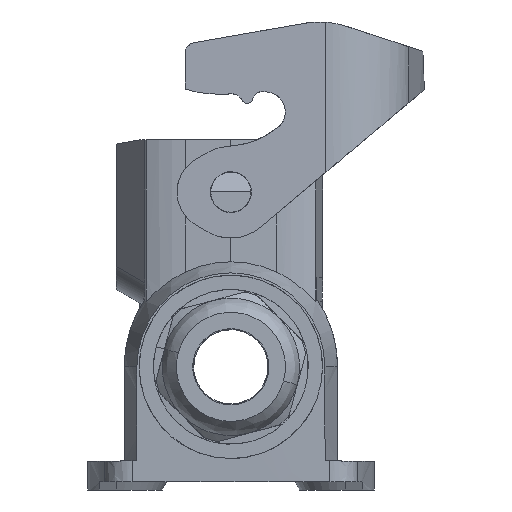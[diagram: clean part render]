
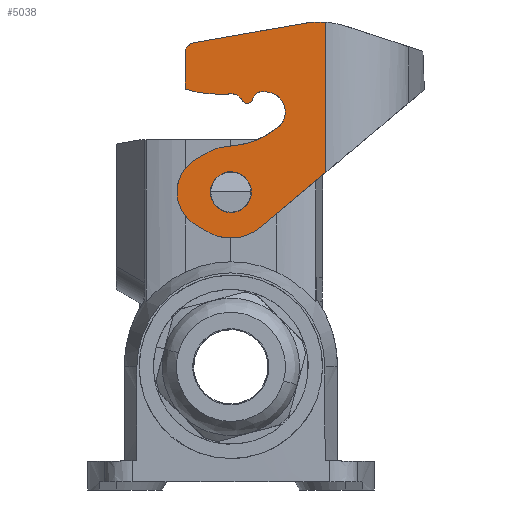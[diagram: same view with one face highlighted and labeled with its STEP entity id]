
A CAD part, left-side view. The second image highlights one B-rep face of the part: STEP entity #5038.
In plain terms, the highlighted planar face has unit normal (-1, -0.009, 0).
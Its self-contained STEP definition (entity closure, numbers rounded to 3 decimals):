
#4811=FACE_BOUND('',#6995,.T.);
#4812=FACE_BOUND('',#6996,.T.);
#5038=ADVANCED_FACE('',(#4811,#4812),#5766,.T.);
#5766=PLANE('',#21309);
#6995=EDGE_LOOP('',(#8269));
#6996=EDGE_LOOP('',(#8270,#8271,#8272,#8273,#8274,#8275,#8276,#8277,#8278,
#8279,#8280,#8281,#8282,#8283,#8284,#8285,#8286,#8287,#8288));
#8269=ORIENTED_EDGE('',*,*,#14174,.F.);
#8270=ORIENTED_EDGE('',*,*,#14175,.T.);
#8271=ORIENTED_EDGE('',*,*,#14176,.F.);
#8272=ORIENTED_EDGE('',*,*,#14177,.T.);
#8273=ORIENTED_EDGE('',*,*,#14178,.T.);
#8274=ORIENTED_EDGE('',*,*,#14179,.F.);
#8275=ORIENTED_EDGE('',*,*,#14180,.T.);
#8276=ORIENTED_EDGE('',*,*,#14181,.F.);
#8277=ORIENTED_EDGE('',*,*,#14182,.F.);
#8278=ORIENTED_EDGE('',*,*,#14183,.F.);
#8279=ORIENTED_EDGE('',*,*,#14184,.F.);
#8280=ORIENTED_EDGE('',*,*,#14185,.F.);
#8281=ORIENTED_EDGE('',*,*,#14186,.F.);
#8282=ORIENTED_EDGE('',*,*,#14187,.F.);
#8283=ORIENTED_EDGE('',*,*,#14188,.F.);
#8284=ORIENTED_EDGE('',*,*,#14189,.T.);
#8285=ORIENTED_EDGE('',*,*,#14102,.T.);
#8286=ORIENTED_EDGE('',*,*,#14190,.T.);
#8287=ORIENTED_EDGE('',*,*,#14143,.F.);
#8288=ORIENTED_EDGE('',*,*,#13994,.F.);
#12412=VERTEX_POINT('',#26782);
#12413=VERTEX_POINT('',#26784);
#12468=VERTEX_POINT('',#27188);
#12469=VERTEX_POINT('',#27190);
#12504=VERTEX_POINT('',#27275);
#12523=VERTEX_POINT('',#27350);
#12524=VERTEX_POINT('',#27352);
#12525=VERTEX_POINT('',#27354);
#12526=VERTEX_POINT('',#27356);
#12527=VERTEX_POINT('',#27358);
#12528=VERTEX_POINT('',#27360);
#12529=VERTEX_POINT('',#27362);
#12530=VERTEX_POINT('',#27364);
#12531=VERTEX_POINT('',#27366);
#12532=VERTEX_POINT('',#27368);
#12533=VERTEX_POINT('',#27370);
#12534=VERTEX_POINT('',#27372);
#12535=VERTEX_POINT('',#27374);
#12536=VERTEX_POINT('',#27376);
#12537=VERTEX_POINT('',#27378);
#13994=EDGE_CURVE('',#12412,#12413,#17438,.T.);
#14102=EDGE_CURVE('',#12469,#12468,#16189,.T.);
#14143=EDGE_CURVE('',#12413,#12504,#16199,.T.);
#14174=EDGE_CURVE('',#12523,#12523,#16203,.T.);
#14175=EDGE_CURVE('',#12412,#12524,#17547,.T.);
#14176=EDGE_CURVE('',#12525,#12524,#16204,.T.);
#14177=EDGE_CURVE('',#12525,#12526,#17548,.T.);
#14178=EDGE_CURVE('',#12526,#12527,#16205,.T.);
#14179=EDGE_CURVE('',#12528,#12527,#17549,.T.);
#14180=EDGE_CURVE('',#12528,#12529,#16206,.T.);
#14181=EDGE_CURVE('',#12530,#12529,#17550,.T.);
#14182=EDGE_CURVE('',#12531,#12530,#16207,.T.);
#14183=EDGE_CURVE('',#12532,#12531,#16208,.T.);
#14184=EDGE_CURVE('',#12533,#12532,#16209,.T.);
#14185=EDGE_CURVE('',#12534,#12533,#17551,.T.);
#14186=EDGE_CURVE('',#12535,#12534,#16210,.T.);
#14187=EDGE_CURVE('',#12536,#12535,#16211,.T.);
#14188=EDGE_CURVE('',#12537,#12536,#16212,.T.);
#14189=EDGE_CURVE('',#12537,#12469,#17552,.T.);
#14190=EDGE_CURVE('',#12468,#12504,#17553,.T.);
#16189=ELLIPSE('',#21269,6.588,6.588);
#16199=ELLIPSE('',#21287,8.,8.);
#16203=ELLIPSE('',#21299,3.575,3.575);
#16204=ELLIPSE('',#21300,15.001,15.);
#16205=ELLIPSE('',#21301,2.,2.);
#16206=ELLIPSE('',#21302,15.001,15.);
#16207=ELLIPSE('',#21303,2.3,2.3);
#16208=ELLIPSE('',#21304,1.,1.);
#16209=ELLIPSE('',#21305,1.5,1.5);
#16210=ELLIPSE('',#21306,3.5,3.5);
#16211=ELLIPSE('',#21307,15.001,15.);
#16212=ELLIPSE('',#21308,8.,8.);
#17438=LINE('',#26783,#18885);
#17547=LINE('',#27351,#18995);
#17548=LINE('',#27355,#18996);
#17549=LINE('',#27359,#18997);
#17550=LINE('',#27363,#18998);
#17551=LINE('',#27371,#18999);
#17552=LINE('',#27379,#19000);
#17553=LINE('',#27380,#19001);
#18885=VECTOR('',#22572,1.);
#18995=VECTOR('',#22908,1.);
#18996=VECTOR('',#22911,1.);
#18997=VECTOR('',#22914,1.);
#18998=VECTOR('',#22917,1.);
#18999=VECTOR('',#22924,1.);
#19000=VECTOR('',#22931,1.);
#19001=VECTOR('',#22932,1.);
#21269=AXIS2_PLACEMENT_3D('',#27189,#22800,#22801);
#21287=AXIS2_PLACEMENT_3D('',#27277,#22862,#22863);
#21299=AXIS2_PLACEMENT_3D('',#27349,#22906,#22907);
#21300=AXIS2_PLACEMENT_3D('',#27353,#22909,#22910);
#21301=AXIS2_PLACEMENT_3D('',#27357,#22912,#22913);
#21302=AXIS2_PLACEMENT_3D('',#27361,#22915,#22916);
#21303=AXIS2_PLACEMENT_3D('',#27365,#22918,#22919);
#21304=AXIS2_PLACEMENT_3D('',#27367,#22920,#22921);
#21305=AXIS2_PLACEMENT_3D('',#27369,#22922,#22923);
#21306=AXIS2_PLACEMENT_3D('',#27373,#22925,#22926);
#21307=AXIS2_PLACEMENT_3D('',#27375,#22927,#22928);
#21308=AXIS2_PLACEMENT_3D('',#27377,#22929,#22930);
#21309=AXIS2_PLACEMENT_3D('',#27381,#22933,#22934);
#22572=DIRECTION('',(-0.007,0.766,-0.643));
#22800=DIRECTION('',(-1.,-0.009,0.));
#22801=DIRECTION('',(0.009,-1.,0.));
#22862=DIRECTION('',(1.,0.009,0.));
#22863=DIRECTION('',(0.009,-1.,0.));
#22906=DIRECTION('',(-1.,-0.009,0.));
#22907=DIRECTION('',(0.009,-1.,0.));
#22908=DIRECTION('',(0.,0.,1.));
#22909=DIRECTION('',(1.,0.009,0.));
#22910=DIRECTION('',(0.009,-1.,0.));
#22911=DIRECTION('',(-0.009,0.985,-0.174));
#22912=DIRECTION('',(-1.,-0.009,0.));
#22913=DIRECTION('',(0.009,-1.,0.));
#22914=DIRECTION('',(0.,0.,1.));
#22915=DIRECTION('',(-1.,-0.009,0.));
#22916=DIRECTION('',(0.009,-1.,0.));
#22917=DIRECTION('',(-0.009,0.996,0.087));
#22918=DIRECTION('',(-1.,-0.009,0.));
#22919=DIRECTION('',(0.009,-1.,0.));
#22920=DIRECTION('',(1.,0.009,0.));
#22921=DIRECTION('',(0.009,-1.,0.));
#22922=DIRECTION('',(-1.,-0.009,0.));
#22923=DIRECTION('',(0.009,-1.,0.));
#22924=DIRECTION('',(-0.009,1.,0.));
#22925=DIRECTION('',(-1.,-0.009,0.));
#22926=DIRECTION('',(0.009,-1.,0.));
#22927=DIRECTION('',(-1.,-0.009,0.));
#22928=DIRECTION('',(0.009,-1.,0.));
#22929=DIRECTION('',(1.,0.009,0.));
#22930=DIRECTION('',(0.009,-1.,0.));
#22931=DIRECTION('',(-0.008,0.866,-0.5));
#22932=DIRECTION('',(0.008,-0.866,-0.5));
#22933=DIRECTION('',(-1.,-0.009,0.));
#22934=DIRECTION('',(-0.009,1.,0.));
#26782=CARTESIAN_POINT('',(-37.255,-16.576,3.266));
#26783=CARTESIAN_POINT('',(-37.223,-20.257,6.355));
#26784=CARTESIAN_POINT('',(-37.355,-5.142,-6.328));
#27188=CARTESIAN_POINT('',(-37.453,6.119,-5.905));
#27189=CARTESIAN_POINT('',(-37.425,2.825,-0.2));
#27190=CARTESIAN_POINT('',(-37.453,6.119,5.505));
#27275=CARTESIAN_POINT('',(-37.435,4.,-7.128));
#27277=CARTESIAN_POINT('',(-37.4,0.,-0.2));
#27349=CARTESIAN_POINT('',(-37.4,0.,-0.2));
#27350=CARTESIAN_POINT('',(-37.369,-3.575,-0.2));
#27351=CARTESIAN_POINT('',(-37.255,-16.576,44.8));
#27352=CARTESIAN_POINT('',(-37.255,-16.576,29.455));
#27353=CARTESIAN_POINT('',(-37.265,-15.424,14.499));
#27354=CARTESIAN_POINT('',(-37.288,-12.819,29.271));
#27355=CARTESIAN_POINT('',(-37.475,8.596,25.495));
#27356=CARTESIAN_POINT('',(-37.455,6.347,25.891));
#27357=CARTESIAN_POINT('',(-37.452,6.,23.922));
#27358=CARTESIAN_POINT('',(-37.47,8.,23.922));
#27359=CARTESIAN_POINT('',(-37.47,8.,44.8));
#27360=CARTESIAN_POINT('',(-37.47,8.,17.8));
#27361=CARTESIAN_POINT('',(-37.428,3.233,32.022));
#27362=CARTESIAN_POINT('',(-37.44,4.54,17.079));
#27363=CARTESIAN_POINT('',(-37.44,4.541,17.079));
#27364=CARTESIAN_POINT('',(-37.408,0.958,16.766));
#27365=CARTESIAN_POINT('',(-37.4,0.,14.675));
#27366=CARTESIAN_POINT('',(-37.383,-2.002,15.808));
#27367=CARTESIAN_POINT('',(-37.375,-2.872,16.3));
#27368=CARTESIAN_POINT('',(-37.366,-3.852,16.1));
#27369=CARTESIAN_POINT('',(-37.354,-5.322,15.8));
#27370=CARTESIAN_POINT('',(-37.354,-5.322,17.3));
#27371=CARTESIAN_POINT('',(-37.505,12.,17.3));
#27372=CARTESIAN_POINT('',(-37.348,-6.,17.3));
#27373=CARTESIAN_POINT('',(-37.348,-6.,13.8));
#27374=CARTESIAN_POINT('',(-37.329,-8.191,11.07));
#27375=CARTESIAN_POINT('',(-37.41,1.198,22.769));
#27376=CARTESIAN_POINT('',(-37.404,0.417,7.789));
#27377=CARTESIAN_POINT('',(-37.4,0.,-0.2));
#27378=CARTESIAN_POINT('',(-37.435,4.,6.728));
#27379=CARTESIAN_POINT('',(-37.343,-6.485,12.781));
#27380=CARTESIAN_POINT('',(-37.683,32.484,9.317));
#27381=CARTESIAN_POINT('',(-37.505,12.,44.8));
